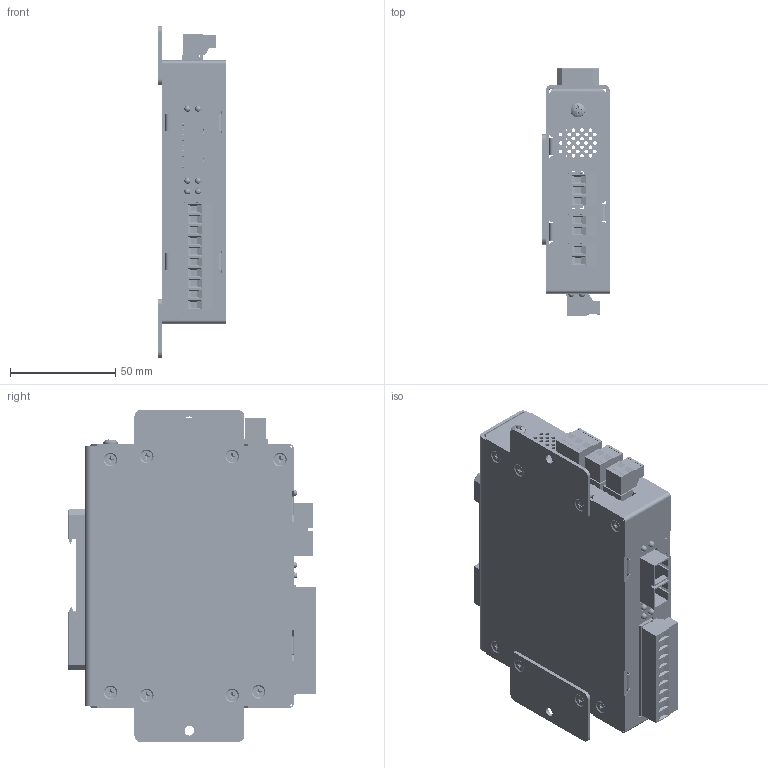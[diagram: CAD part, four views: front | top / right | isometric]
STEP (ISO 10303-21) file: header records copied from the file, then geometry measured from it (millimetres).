
FILE_DESCRIPTION(/* description */ ('STEP AP242','CAx-IF Rec.Pracs.---Representation and Presentation of Product Manufacturing Information (PMI)---4.0---2014-10-13','CAx-IF Rec.Pracs.---3D Tessellated Geometry---0.4---2014-09-14','2;1'),/* implementation_level */ '2;1');
FILE_NAME(/* name */ '618c42d7b92d995213543e10',/* time_stamp */ '2021-11-10T22:08:27+00:00',/* author */ (''),/* organization */ (''),/* preprocessor_version */ 'ST-DEVELOPER v18.1',/* originating_system */ ' ',/* authorisation */ ' ');
FILE_SCHEMA (('AP242_MANAGED_MODEL_BASED_3D_ENGINEERING_MIM_LF { 1 0 10303 442 1 1 4 }'));
Products named in the file (28): ADH-XXXXX-XX-1-Wall - Rev D; 96640A334_Black-Oxide 18-8 Stainless Steel Phillips Flat Head Screws; SMTSO-440-8ET-PennEngineering-3D-09-30-2021; 91772A144_Passivated 18-8 Stainless Steel Pan Head Phillips Screw; 96640A115_Black-Oxide 18-8 Stainless Steel Phillips Flat Head Screws; Part 1; DINM12-RC-Assy <1>; Spring clip; spring^DINM12-RC-Assy; DINM12-RC; H-138 - 4 CH Analog Signal Industrial Media Converter - Front Cover <
1>; PRODUCT_NAME_1; H-105 Rear Housing <1>; 95185A130_Zinc-Plated Steel Press-Fit Nut for Sheet Metal; PCB-ADH-420TX-XX-1 <1>; C-796634-2; C-796638-2; C-796638-3; C-796634-3; C-1-796638-0
Assembly tree (69 placements, depth 3):
  ADH-XXXXX-XX-1-Wall - Rev D
    96640A334_Black-Oxide 18-8 Stainless Steel Phillips Flat Head Screws  x14
    SMTSO-440-8ET-PennEngineering-3D-09-30-2021  x4
    91772A144_Passivated 18-8 Stainless Steel Pan Head Phillips Screw
    96640A115_Black-Oxide 18-8 Stainless Steel Phillips Flat Head Screws  x3
    Part 1  x2
    DINM12-RC-Assy <1>
      Spring clip
      spring^DINM12-RC-Assy
      spring^DINM12-RC-Assy
      DINM12-RC
    H-138 - 4 CH Analog Signal Industrial Media Converter - Front Cover <
1>
      Part 1
      PRODUCT_NAME_1  x10
      PRODUCT_NAME_1
    H-105 Rear Housing <1>
      Part 1
      95185A130_Zinc-Plated Steel Press-Fit Nut for Sheet Metal  x3
    PCB-ADH-420TX-XX-1 <1>
      C-796634-2  x7
      C-796638-2  x2
      Part 1  x4
      Part 1
      Part 1  x3
      C-796638-3
      C-796634-3
      C-1-796638-0
      Part 1
Bounding box: 32.1 x 117.7 x 157.99 mm (x, y, z)
Volume: 104287.4 mm3; surface area: 139547 mm2
Topology: 64 solids, 65 shells, 4735 faces, 13509 edges, 9209 vertices
Faces by surface type: plane 3245, cylinder 1166, cone 230, bspline 50, torus 33, sphere 11
Full cylindrical faces by diameter (mm): 0.45 x9, 0.5 x3, 0.9 x6, 1.3 x4, 1.905 x143, 2.156 x14, 2.647 x1, 2.845 x112, 2.9 x6, 3.251 x18, 3.505 x24, 3.556 x6, 4 x20, 4.089 x4, 4.191 x10, 4.216 x14, 4.572 x2, 4.724 x1, 4.75 x1, 4.763 x3, 4.826 x3, 4.889 x10, 5.41 x8, 5.563 x13, 5.588 x10, 6.401 x1, 6.858 x1, 7.112 x3, 7.5 x1, 7.62 x8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
Entity records: 77773 total; most frequent: CARTESIAN_POINT 20305, ORIENTED_EDGE 11026, DIRECTION 10910, EDGE_CURVE 5515, VERTEX_POINT 3832, LINE 3800, VECTOR 3800, AXIS2_PLACEMENT_3D 3555
